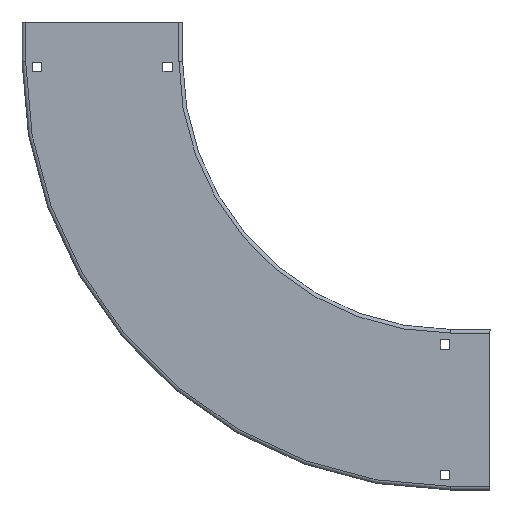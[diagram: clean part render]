
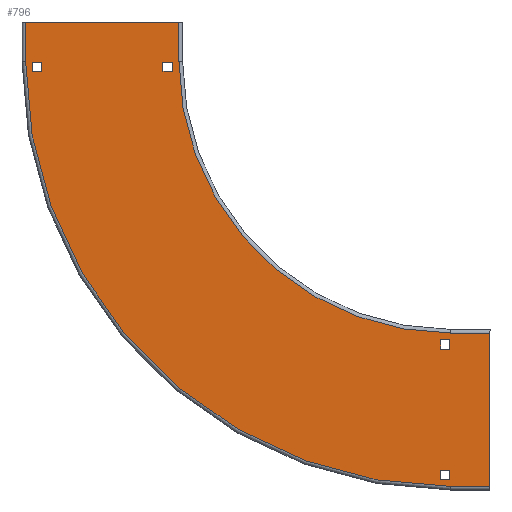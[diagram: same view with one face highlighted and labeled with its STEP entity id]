
A CAD part, left-side view. The second image highlights one B-rep face of the part: STEP entity #796.
In plain terms, the highlighted planar face has unit normal (-1, 0, 0).
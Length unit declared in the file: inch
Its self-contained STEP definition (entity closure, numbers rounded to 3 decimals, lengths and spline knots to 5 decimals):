
#1=DIRECTION('',(0.,0.,-1.));
#2=VECTOR('',#1,6.858);
#3=CARTESIAN_POINT('',(0.,-1.75,19.02));
#4=LINE('',#3,#2);
#5=DIRECTION('',(0.,1.,0.));
#6=VECTOR('',#5,6.858);
#7=CARTESIAN_POINT('',(0.,12.162,-1.75));
#8=LINE('',#7,#6);
#9=DIRECTION('',(0.,0.,-1.));
#10=VECTOR('',#9,0.41);
#11=CARTESIAN_POINT('',(0.,18.7135,0.455));
#12=LINE('',#11,#10);
#13=DIRECTION('',(0.,-1.,0.));
#14=VECTOR('',#13,0.41);
#15=CARTESIAN_POINT('',(0.,18.7135,0.045));
#16=LINE('',#15,#14);
#17=DIRECTION('',(0.,0.,1.));
#18=VECTOR('',#17,0.41);
#19=CARTESIAN_POINT('',(0.,18.3035,0.045));
#20=LINE('',#19,#18);
#21=DIRECTION('',(0.,1.,0.));
#22=VECTOR('',#21,0.41);
#23=CARTESIAN_POINT('',(0.,18.3035,0.455));
#24=LINE('',#23,#22);
#25=DIRECTION('',(0.,1.,0.));
#26=VECTOR('',#25,0.41);
#27=CARTESIAN_POINT('',(0.,12.4685,0.455));
#28=LINE('',#27,#26);
#29=DIRECTION('',(0.,0.,-1.));
#30=VECTOR('',#29,0.41);
#31=CARTESIAN_POINT('',(0.,12.8785,0.455));
#32=LINE('',#31,#30);
#33=DIRECTION('',(0.,-1.,0.));
#34=VECTOR('',#33,0.41);
#35=CARTESIAN_POINT('',(0.,12.8785,0.045));
#36=LINE('',#35,#34);
#37=DIRECTION('',(0.,0.,1.));
#38=VECTOR('',#37,0.41);
#39=CARTESIAN_POINT('',(0.,12.4685,0.045));
#40=LINE('',#39,#38);
#41=DIRECTION('',(0.,0.,-1.));
#42=VECTOR('',#41,0.41);
#43=CARTESIAN_POINT('',(0.,0.455,12.87611));
#44=LINE('',#43,#42);
#45=DIRECTION('',(0.,-1.,0.));
#46=VECTOR('',#45,0.41);
#47=CARTESIAN_POINT('',(0.,0.455,12.46611));
#48=LINE('',#47,#46);
#49=DIRECTION('',(0.,0.,1.));
#50=VECTOR('',#49,0.41);
#51=CARTESIAN_POINT('',(0.,0.045,12.46611));
#52=LINE('',#51,#50);
#53=DIRECTION('',(0.,1.,0.));
#54=VECTOR('',#53,0.41);
#55=CARTESIAN_POINT('',(0.,0.045,12.87611));
#56=LINE('',#55,#54);
#57=DIRECTION('',(0.,0.,1.));
#58=VECTOR('',#57,0.41);
#59=CARTESIAN_POINT('',(0.,0.045,18.30187));
#60=LINE('',#59,#58);
#61=DIRECTION('',(0.,1.,0.));
#62=VECTOR('',#61,0.41);
#63=CARTESIAN_POINT('',(0.,0.045,18.71187));
#64=LINE('',#63,#62);
#65=DIRECTION('',(0.,0.,-1.));
#66=VECTOR('',#65,0.41);
#67=CARTESIAN_POINT('',(0.,0.455,18.71187));
#68=LINE('',#67,#66);
#69=DIRECTION('',(0.,-1.,0.));
#70=VECTOR('',#69,0.41);
#71=CARTESIAN_POINT('',(0.,0.455,18.30187));
#72=LINE('',#71,#70);
#73=DIRECTION('',(0.,0.,1.));
#74=VECTOR('',#73,1.75);
#75=CARTESIAN_POINT('',(0.,19.02,-1.75));
#76=LINE('',#75,#74);
#114=DIRECTION('',(0.,0.,-1.));
#115=VECTOR('',#114,1.75);
#116=CARTESIAN_POINT('',(0.,12.162,0.));
#117=LINE('',#116,#115);
#123=CARTESIAN_POINT('',(0.,0.,0.));
#124=DIRECTION('',(-1.,0.,0.));
#125=DIRECTION('',(0.,0.,1.));
#126=AXIS2_PLACEMENT_3D('',#123,#124,#125);
#128=DIRECTION('',(0.,1.,0.));
#129=VECTOR('',#128,1.75);
#130=CARTESIAN_POINT('',(0.,-1.75,12.162));
#131=LINE('',#130,#129);
#169=DIRECTION('',(0.,-1.,0.));
#170=VECTOR('',#169,1.75);
#171=CARTESIAN_POINT('',(0.,0.,19.02));
#172=LINE('',#171,#170);
#178=CARTESIAN_POINT('',(0.,0.,0.));
#179=DIRECTION('',(1.,0.,0.));
#180=DIRECTION('',(0.,1.,0.));
#181=AXIS2_PLACEMENT_3D('',#178,#179,#180);
#573=CARTESIAN_POINT('',(0.,-1.75,12.162));
#575=VERTEX_POINT('',#573);
#579=CARTESIAN_POINT('',(0.,0.,12.162));
#581=VERTEX_POINT('',#579);
#585=CARTESIAN_POINT('',(0.,12.162,0.));
#587=VERTEX_POINT('',#585);
#591=CARTESIAN_POINT('',(0.,12.162,-1.75));
#593=VERTEX_POINT('',#591);
#621=CARTESIAN_POINT('',(0.,19.02,-1.75));
#622=VERTEX_POINT('',#621);
#623=CARTESIAN_POINT('',(0.,-1.75,19.02));
#624=VERTEX_POINT('',#623);
#629=CARTESIAN_POINT('',(0.,19.02,0.));
#631=VERTEX_POINT('',#629);
#635=CARTESIAN_POINT('',(0.,0.,19.02));
#637=VERTEX_POINT('',#635);
#669=CARTESIAN_POINT('',(0.,18.7135,0.455));
#670=CARTESIAN_POINT('',(0.,18.7135,0.045));
#671=VERTEX_POINT('',#669);
#672=VERTEX_POINT('',#670);
#673=CARTESIAN_POINT('',(0.,18.3035,0.045));
#674=VERTEX_POINT('',#673);
#675=CARTESIAN_POINT('',(0.,18.3035,0.455));
#676=VERTEX_POINT('',#675);
#677=CARTESIAN_POINT('',(0.,12.4685,0.455));
#678=CARTESIAN_POINT('',(0.,12.8785,0.455));
#679=VERTEX_POINT('',#677);
#680=VERTEX_POINT('',#678);
#681=CARTESIAN_POINT('',(0.,12.8785,0.045));
#682=VERTEX_POINT('',#681);
#683=CARTESIAN_POINT('',(0.,12.4685,0.045));
#684=VERTEX_POINT('',#683);
#701=CARTESIAN_POINT('',(0.,0.455,12.87611));
#702=CARTESIAN_POINT('',(0.,0.455,12.46611));
#703=VERTEX_POINT('',#701);
#704=VERTEX_POINT('',#702);
#705=CARTESIAN_POINT('',(0.,0.045,12.46611));
#706=VERTEX_POINT('',#705);
#707=CARTESIAN_POINT('',(0.,0.045,12.87611));
#708=VERTEX_POINT('',#707);
#709=CARTESIAN_POINT('',(0.,0.045,18.30187));
#710=CARTESIAN_POINT('',(0.,0.045,18.71187));
#711=VERTEX_POINT('',#709);
#712=VERTEX_POINT('',#710);
#713=CARTESIAN_POINT('',(0.,0.455,18.71187));
#714=VERTEX_POINT('',#713);
#715=CARTESIAN_POINT('',(0.,0.455,18.30187));
#716=VERTEX_POINT('',#715);
#733=CARTESIAN_POINT('',(0.,0.,0.));
#734=DIRECTION('',(1.,0.,0.));
#735=DIRECTION('',(0.,0.,-1.));
#736=AXIS2_PLACEMENT_3D('',#733,#734,#735);
#737=PLANE('',#736);
#739=ORIENTED_EDGE('',*,*,#738,.T.);
#741=ORIENTED_EDGE('',*,*,#740,.T.);
#743=ORIENTED_EDGE('',*,*,#742,.T.);
#745=ORIENTED_EDGE('',*,*,#744,.T.);
#747=ORIENTED_EDGE('',*,*,#746,.T.);
#749=ORIENTED_EDGE('',*,*,#748,.T.);
#751=ORIENTED_EDGE('',*,*,#750,.T.);
#753=ORIENTED_EDGE('',*,*,#752,.T.);
#754=EDGE_LOOP('',(#739,#741,#743,#745,#747,#749,#751,#753));
#755=FACE_OUTER_BOUND('',#754,.F.);
#757=ORIENTED_EDGE('',*,*,#756,.T.);
#759=ORIENTED_EDGE('',*,*,#758,.T.);
#761=ORIENTED_EDGE('',*,*,#760,.T.);
#763=ORIENTED_EDGE('',*,*,#762,.T.);
#764=EDGE_LOOP('',(#757,#759,#761,#763));
#765=FACE_BOUND('',#764,.F.);
#767=ORIENTED_EDGE('',*,*,#766,.T.);
#769=ORIENTED_EDGE('',*,*,#768,.T.);
#771=ORIENTED_EDGE('',*,*,#770,.T.);
#773=ORIENTED_EDGE('',*,*,#772,.T.);
#774=EDGE_LOOP('',(#767,#769,#771,#773));
#775=FACE_BOUND('',#774,.F.);
#777=ORIENTED_EDGE('',*,*,#776,.T.);
#779=ORIENTED_EDGE('',*,*,#778,.T.);
#781=ORIENTED_EDGE('',*,*,#780,.T.);
#783=ORIENTED_EDGE('',*,*,#782,.T.);
#784=EDGE_LOOP('',(#777,#779,#781,#783));
#785=FACE_BOUND('',#784,.F.);
#787=ORIENTED_EDGE('',*,*,#786,.T.);
#789=ORIENTED_EDGE('',*,*,#788,.T.);
#791=ORIENTED_EDGE('',*,*,#790,.T.);
#793=ORIENTED_EDGE('',*,*,#792,.T.);
#794=EDGE_LOOP('',(#787,#789,#791,#793));
#795=FACE_BOUND('',#794,.F.);
#796=ADVANCED_FACE('',(#755,#765,#775,#785,#795),#737,.F.);
#127=CIRCLE('',#126,12.162);
#182=CIRCLE('',#181,19.02);
#738=EDGE_CURVE('',#622,#631,#76,.T.);
#740=EDGE_CURVE('',#631,#637,#182,.T.);
#742=EDGE_CURVE('',#637,#624,#172,.T.);
#744=EDGE_CURVE('',#624,#575,#4,.T.);
#746=EDGE_CURVE('',#575,#581,#131,.T.);
#748=EDGE_CURVE('',#581,#587,#127,.T.);
#750=EDGE_CURVE('',#587,#593,#117,.T.);
#752=EDGE_CURVE('',#593,#622,#8,.T.);
#756=EDGE_CURVE('',#671,#672,#12,.T.);
#758=EDGE_CURVE('',#672,#674,#16,.T.);
#760=EDGE_CURVE('',#674,#676,#20,.T.);
#762=EDGE_CURVE('',#676,#671,#24,.T.);
#766=EDGE_CURVE('',#679,#680,#28,.T.);
#768=EDGE_CURVE('',#680,#682,#32,.T.);
#770=EDGE_CURVE('',#682,#684,#36,.T.);
#772=EDGE_CURVE('',#684,#679,#40,.T.);
#776=EDGE_CURVE('',#703,#704,#44,.T.);
#778=EDGE_CURVE('',#704,#706,#48,.T.);
#780=EDGE_CURVE('',#706,#708,#52,.T.);
#782=EDGE_CURVE('',#708,#703,#56,.T.);
#786=EDGE_CURVE('',#711,#712,#60,.T.);
#788=EDGE_CURVE('',#712,#714,#64,.T.);
#790=EDGE_CURVE('',#714,#716,#68,.T.);
#792=EDGE_CURVE('',#716,#711,#72,.T.);
